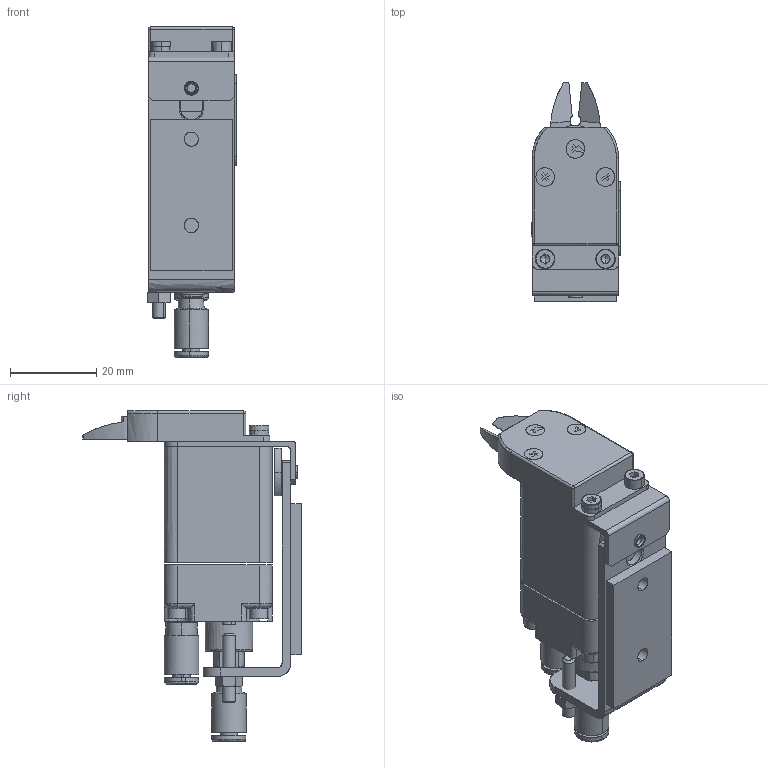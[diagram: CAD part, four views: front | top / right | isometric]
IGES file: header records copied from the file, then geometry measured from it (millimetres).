
Start section: SolidWorks IGES file using analytic representation for surfaces
Global section: file name: C:\Users\STAR056C\Desktop\1080_h-yashiro\図面データ\131626\ネット記載用データ\131626.IGS,15HSolidWorks; native system: 2018; preprocessor: SolidWorks 2018; author: STAR056C; date: 190424.172308; units: millimetre
Bounding box: 20.8 x 50.73 x 76.7 mm (x, y, z)
Surface area: 16915.5 mm2 (no closed solid volume)
Topology: 0 solids, 0 shells, 538 faces, 6773 edges, 6782 vertices
Faces by surface type: bspline 538
